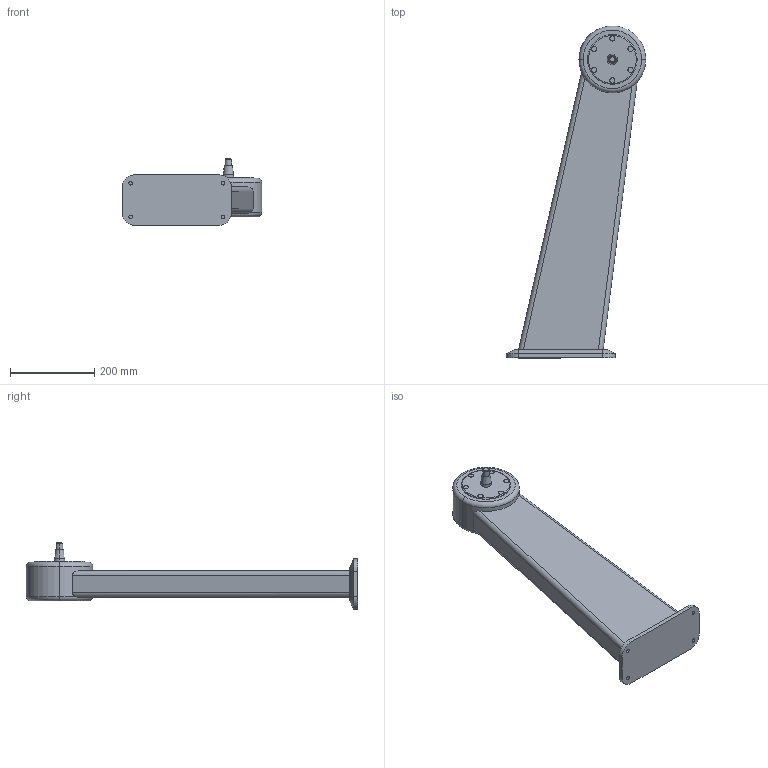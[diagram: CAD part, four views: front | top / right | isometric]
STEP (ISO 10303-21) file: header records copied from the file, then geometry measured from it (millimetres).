
FILE_DESCRIPTION (( 'STEP AP214' ), '1' );
FILE_NAME ('WP700_H710_-10.STEP', '2014-08-14T10:02:52', ( '' ), ( '' ), 'SwSTEP 2.0', 'SolidWorks 2014', '' );
FILE_SCHEMA (( 'AUTOMOTIVE_DESIGN' ));
Length unit declared in the file: millimetre
Products named in the file (1): WP700_H710_-10
Bounding box: 332.03 x 789.5 x 158.3 mm (x, y, z)
Volume: 8931429.7 mm3; surface area: 414413.2 mm2
Topology: 1 solids, 1 shells, 79 faces, 171 edges, 108 vertices
Faces by surface type: cylinder 36, plane 29, cone 8, torus 6
Entity records: 2294 total; most frequent: CARTESIAN_POINT 475, DIRECTION 408, ORIENTED_EDGE 342, EDGE_CURVE 171, AXIS2_PLACEMENT_3D 167, VERTEX_POINT 108, EDGE_LOOP 93, CIRCLE 87
